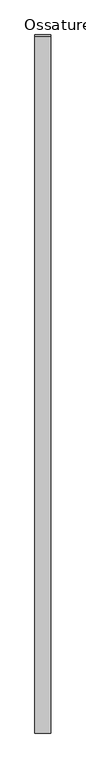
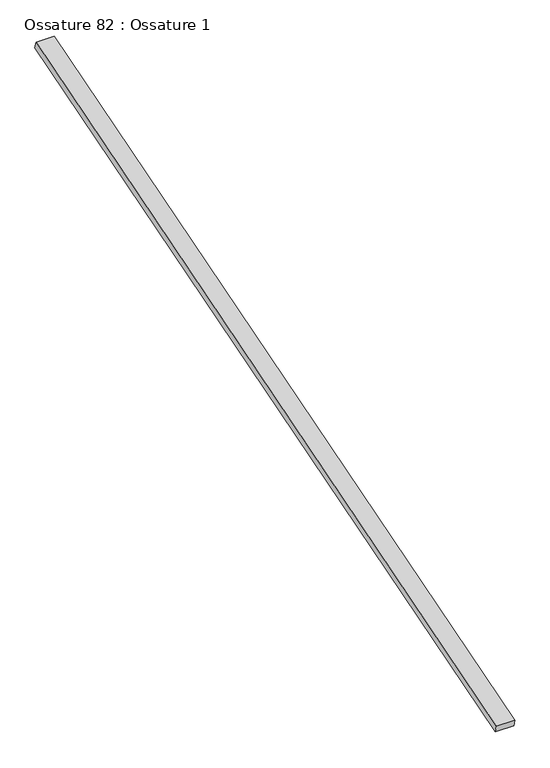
"""IFC4 building model written with IfcOpenShell, lengths in millimetres: beam geometry, Ossature 82 : Ossature 1."""

import ifcopenshell
import ifcopenshell.guid

model = None  # the IFC model being written
_history = None  # IfcOwnerHistory: only IFC2X3 demands one
_inside = {}  # id of a spatial element -> (the spatial element, [elements in it])
_under = {}  # id of a project, library or spatial element -> (it, [spatial elements below it])
_declared = {}  # id of a project -> (the project, [libraries it declares])
_typed = {}  # id of a type object -> (the type object, [elements of that type])
_made_of = {}  # id of a material, layer set ... -> (it, [elements and type objects made of it])


def new_model(schema):
    """Start an empty IFC model of exactly this schema.

    Asked for "IFC4X3", IfcOpenShell would pick the latest addendum, in which some entities
    have other attributes; the version numbers below select the first issue.
    IFC2X3 requires an IfcOwnerHistory on every rooted entity: one is made here for all.
    """
    global model, _history
    if schema == "IFC4X3":
        model = ifcopenshell.file(schema_version=(4, 3, 0, 0))
    else:
        model = ifcopenshell.file(schema=schema)
    _inside.clear()
    _under.clear()
    _declared.clear()
    _typed.clear()
    _made_of.clear()
    _history = None
    if model.schema == "IFC2X3":
        org = make("IfcOrganization", Name="unknown")
        user = make(
            "IfcPersonAndOrganization",
            ThePerson=make("IfcPerson", FamilyName="unknown"),
            TheOrganization=org,
        )
        app = make(
            "IfcApplication",
            ApplicationDeveloper=org,
            Version="unknown",
            ApplicationFullName="unknown",
            ApplicationIdentifier="unknown",
        )
        _history = make(
            "IfcOwnerHistory",
            OwningUser=user,
            OwningApplication=app,
            ChangeAction="ADDED",
            CreationDate=0,
        )
    return model


def make(cls, **values):
    """One entity of the class cls with the attributes given. An attribute that is None is left unset."""
    return model.create_entity(
        cls, **{name: value for name, value in values.items() if value is not None}
    )


def rooted(cls, **values):
    """An entity with a GlobalId (a new one), such as an element, a storey or a relation."""
    return make(cls, GlobalId=ifcopenshell.guid.new(), OwnerHistory=_history, **values)


def si_unit(unit_type, name, prefix=None):
    """IfcSIUnit, for example si_unit("LENGTHUNIT", "METRE", prefix="MILLI")."""
    return make("IfcSIUnit", UnitType=unit_type, Prefix=prefix, Name=name)


def assignment(units):
    """IfcUnitAssignment: the units of a project."""
    return None if units is None else make("IfcUnitAssignment", Units=units)


def point(xyz):
    """IfcCartesianPoint."""
    return None if xyz is None else make("IfcCartesianPoint", Coordinates=xyz)


def direction(xyz):
    """IfcDirection."""
    return None if xyz is None else make("IfcDirection", DirectionRatios=xyz)


def frame(location, z_axis=None, x_axis=None):
    """IfcAxis2Placement3D, a coordinate frame: its origin and axes. An axis left out is left unset."""
    return make(
        "IfcAxis2Placement3D",
        Location=point(location),
        Axis=direction(z_axis),
        RefDirection=direction(x_axis),
    )


def origin():
    """The frame at (0, 0, 0) with its axes left unset."""
    return frame((0.0, 0.0, 0.0))


def place(relative_to, where):
    """IfcLocalPlacement: puts the frame where relative to a parent placement (None: the world)."""
    return make(
        "IfcLocalPlacement", PlacementRelTo=relative_to, RelativePlacement=where
    )


def context(
    kind, dimensions, precision=None, world=None, true_north=None, identifier=None
):
    """IfcGeometricRepresentationContext, for example the 3D "Model" context."""
    return make(
        "IfcGeometricRepresentationContext",
        ContextIdentifier=identifier,
        ContextType=kind,
        CoordinateSpaceDimension=dimensions,
        Precision=precision,
        WorldCoordinateSystem=world,
        TrueNorth=true_north,
    )


def project(units=None, contexts=None):
    """IfcProject with its units and contexts."""
    return rooted(
        "IfcProject",
        Name="project",
        RepresentationContexts=contexts,
        UnitsInContext=assignment(units),
    )


def spatial(cls, under=None, at=None, **own):
    """A site, building, storey or space (cls), placed at a placement, below another one or the project."""
    s = rooted(cls, ObjectPlacement=at, **own)
    if under is not None:
        _under.setdefault(under.id(), (under, []))[1].append(s)
    return s


def polyline(points):
    """IfcPolyline through the points."""
    return make("IfcPolyline", Points=[point(p) for p in points])


def outline(outer, holes=None, kind="AREA"):
    """IfcArbitraryClosedProfileDef: a profile drawn as a closed curve; with holes, ...WithVoids."""
    if holes is None:
        return make("IfcArbitraryClosedProfileDef", ProfileType=kind, OuterCurve=outer)
    return make(
        "IfcArbitraryProfileDefWithVoids",
        ProfileType=kind,
        OuterCurve=outer,
        InnerCurves=holes,
    )


def extrude(swept, where, along, depth):
    """IfcExtrudedAreaSolid: the profile swept, set in the frame where, extruded along a direction by depth."""
    return make(
        "IfcExtrudedAreaSolid",
        SweptArea=swept,
        Position=where,
        ExtrudedDirection=direction(along),
        Depth=depth,
    )


def shape(context_of_items, identifier, shape_type, items):
    """IfcShapeRepresentation: the items that make up one representation, for example the "Body"."""
    return make(
        "IfcShapeRepresentation",
        ContextOfItems=context_of_items,
        RepresentationIdentifier=identifier,
        RepresentationType=shape_type,
        Items=items,
    )


def source(mapping_origin, context_of_items, identifier, shape_type, items):
    """IfcRepresentationMap: a shape defined once, which mapped items show again and again."""
    return make(
        "IfcRepresentationMap",
        MappingOrigin=mapping_origin,
        MappedRepresentation=shape(context_of_items, identifier, shape_type, items),
    )


def transform(
    local_origin,
    x_axis=None,
    y_axis=None,
    z_axis=None,
    scale=None,
    scale2=None,
    scale3=None,
    uniform=True,
):
    """IfcCartesianTransformationOperator3D, or its non-uniform kind. x_axis, y_axis, z_axis: its Axis1, 2, 3."""
    if uniform:
        return make(
            "IfcCartesianTransformationOperator3D",
            Axis1=direction(x_axis),
            Axis2=direction(y_axis),
            LocalOrigin=point(local_origin),
            Scale=scale,
            Axis3=direction(z_axis),
        )
    return make(
        "IfcCartesianTransformationOperator3DnonUniform",
        Axis1=direction(x_axis),
        Axis2=direction(y_axis),
        LocalOrigin=point(local_origin),
        Scale=scale,
        Axis3=direction(z_axis),
        Scale2=scale2,
        Scale3=scale3,
    )


def mapped(mapping_source, mapping_target):
    """IfcMappedItem: shows the shape of a source again, moved by a transform."""
    return make(
        "IfcMappedItem", MappingSource=mapping_source, MappingTarget=mapping_target
    )


def made_of(thing, what):
    """Note that an element or type object is made of a material, layer set ...; save() writes the relation."""
    if what is not None:
        _made_of.setdefault(what.id(), (what, []))[1].append(thing)
    return thing


def element(
    cls,
    number,
    at=None,
    inside=None,
    cuts=None,
    type_object=None,
    material=None,
    context=None,
    identifier="Body",
    shape_type=None,
    held_by="IfcProductDefinitionShape",
    body=None,
    shapes=None,
    **own,
):
    """One element of the class cls, such as IfcWall. Its Tag is "e" and its number.

    at: its placement. inside: the storey or other place that contains it. cuts: it is an
    opening in that element (IfcRelVoidsElement). A single representation is given by context,
    identifier, shape_type and body (its items); several are given by shapes. held_by: the class
    of the entity that holds the representations. save() writes the other relations.
    """
    e = rooted(cls, Tag="e%d" % number, ObjectPlacement=at, **own)
    if body is not None:
        shapes = [shape(context, identifier, shape_type, body)]
    if shapes is not None:
        e.Representation = make(held_by, Representations=shapes)
    if inside is not None:
        _inside.setdefault(inside.id(), (inside, []))[1].append(e)
    if cuts is not None:
        rooted(
            "IfcRelVoidsElement", RelatingBuildingElement=cuts, RelatedOpeningElement=e
        )
    if type_object is not None:
        _typed.setdefault(type_object.id(), (type_object, []))[1].append(e)
    return made_of(e, material)


def aggregate(whole, parts):
    """IfcRelAggregates: a whole, such as a stair, and the parts it consists of."""
    return rooted("IfcRelAggregates", RelatingObject=whole, RelatedObjects=parts)


def save(model, path):
    """Write the relations noted so far, then the file.

    IfcRelAggregates (storeys below a building ...), IfcRelContainedInSpatialStructure (elements
    in a storey), IfcRelDefinesByType, IfcRelAssociatesMaterial and IfcRelDeclares: one each for
    every whole, place, type object, material and project.
    """
    for whole, parts in _under.values():
        aggregate(whole, parts)
    for where, things in _inside.values():
        rooted(
            "IfcRelContainedInSpatialStructure",
            RelatedElements=things,
            RelatingStructure=where,
        )
    for kind, things in _typed.values():
        rooted("IfcRelDefinesByType", RelatedObjects=things, RelatingType=kind)
    for what, things in _made_of.values():
        rooted("IfcRelAssociatesMaterial", RelatedObjects=things, RelatingMaterial=what)
    for by, libraries in _declared.values():
        rooted("IfcRelDeclares", RelatingContext=by, RelatedDefinitions=libraries)
    model.write(path)


def ossature_82_ossature_1_94ba1988(model_context):
    return source(origin(), model_context, "Body", "SweptSolid", [
        extrude(outline(polyline([(0.0, 0.0), (0.0, -4543.0299679), (-100.0, -4543.0299679), (-100.0, 0.0), (0.0, 0.0)])), frame((19815.2466393, -833.3913565, 8153.6336115), z_axis=(0.0, -0.28734788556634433, 0.9578262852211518), x_axis=(-1.0, 0.0, 0.0)), (0.0, 0.0, 1.0), 40.0),
    ])


if __name__ == "__main__":
    model = new_model("IFC4")
    model_context = context("Model", 3, world=origin())
    ifc_project = project(units=[si_unit("LENGTHUNIT", "METRE", prefix="MILLI")], contexts=[model_context])
    site = spatial("IfcSite", under=ifc_project)
    building = spatial("IfcBuilding", under=site)
    placement = place(None, origin())
    ossature_82_ossature_1_shape = ossature_82_ossature_1_94ba1988(model_context)
    element("IfcBeam", 1, ObjectType="Ossature 82 : Ossature 1", at=placement, inside=building, context=model_context, shape_type="MappedRepresentation", body=[
        mapped(ossature_82_ossature_1_shape, transform((0.0, 0.0, 0.0), x_axis=(1.0, 0.0, 0.0), y_axis=(0.0, 1.0, 0.0), z_axis=(0.0, 0.0, 1.0))),
    ])
    save(model, "model.ifc")
